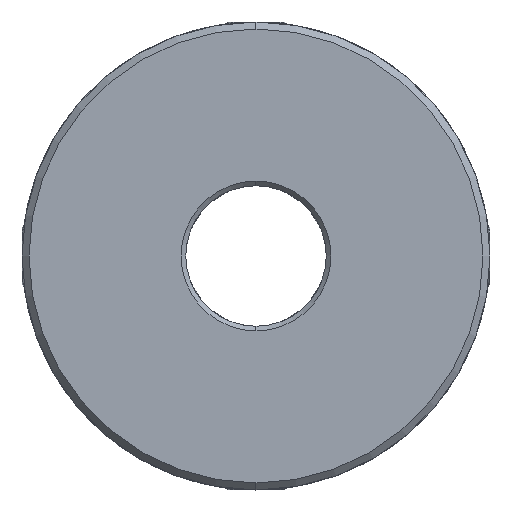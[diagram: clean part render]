
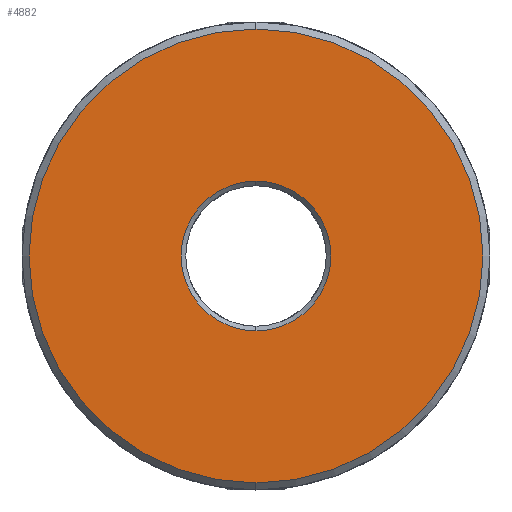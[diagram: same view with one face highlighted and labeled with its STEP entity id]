
A CAD part, front view. The second image highlights one B-rep face of the part: STEP entity #4882.
In plain terms, the highlighted planar face has unit normal (0, -1, 0).
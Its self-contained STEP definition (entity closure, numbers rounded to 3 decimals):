
#163 = AXIS2_PLACEMENT_3D ( 'NONE', #7270, #7243, #3654 ) ;
#331 = CIRCLE ( 'NONE', #1789, 6.4 ) ;
#390 = DIRECTION ( 'NONE',  ( 0., 0., 1. ) ) ;
#555 = CARTESIAN_POINT ( 'NONE',  ( 0., 0., 0. ) ) ;
#1789 = AXIS2_PLACEMENT_3D ( 'NONE', #3276, #3200, #5018 ) ;
#1980 = CARTESIAN_POINT ( 'NONE',  ( 0., 0., -6.4 ) ) ;
#2040 = DIRECTION ( 'NONE',  ( 0., -1., 0. ) ) ;
#2156 = CARTESIAN_POINT ( 'NONE',  ( 24.74, 0., -50. ) ) ;
#2391 = CIRCLE ( 'NONE', #163, 6.4 ) ;
#2594 = FACE_BOUND ( 'NONE', #5749, .T. ) ;
#2837 = ORIENTED_EDGE ( 'NONE', *, *, #3134, .T. ) ;
#3014 = CARTESIAN_POINT ( 'NONE',  ( 0., 0., 6.4 ) ) ;
#3096 = AXIS2_PLACEMENT_3D ( 'NONE', #6188, #2040, #3767 ) ;
#3134 = EDGE_CURVE ( 'NONE', #4165, #5867, #2391, .T. ) ;
#3200 = DIRECTION ( 'NONE',  ( 0., 1., 0. ) ) ;
#3276 = CARTESIAN_POINT ( 'NONE',  ( 0., 0., 0. ) ) ;
#3654 = DIRECTION ( 'NONE',  ( 0., 0., 1. ) ) ;
#3767 = DIRECTION ( 'NONE',  ( 0., 0., 1. ) ) ;
#3959 = DIRECTION ( 'NONE',  ( 0., 1., 0. ) ) ;
#4165 = VERTEX_POINT ( 'NONE', #3014 ) ;
#4570 = PLANE ( 'NONE',  #6126 ) ;
#4620 = ORIENTED_EDGE ( 'NONE', *, *, #7064, .T. ) ;
#4734 = FACE_OUTER_BOUND ( 'NONE', #6218, .T. ) ;
#4784 = DIRECTION ( 'NONE',  ( 0., -1., 0. ) ) ;
#4882 = ADVANCED_FACE ( 'NONE', ( #2594, #4734 ), #4570, .F. ) ;
#5018 = DIRECTION ( 'NONE',  ( 0., 0., 1. ) ) ;
#5076 = CIRCLE ( 'NONE', #3096, 19.4 ) ;
#5336 = EDGE_CURVE ( 'NONE', #5867, #4165, #331, .T. ) ;
#5749 = EDGE_LOOP ( 'NONE', ( #6654, #2837 ) ) ;
#5867 = VERTEX_POINT ( 'NONE', #1980 ) ;
#5990 = CARTESIAN_POINT ( 'NONE',  ( 0., 0., -19.4 ) ) ;
#6075 = ORIENTED_EDGE ( 'NONE', *, *, #6773, .T. ) ;
#6126 = AXIS2_PLACEMENT_3D ( 'NONE', #2156, #3959, #390 ) ;
#6155 = VERTEX_POINT ( 'NONE', #5990 ) ;
#6188 = CARTESIAN_POINT ( 'NONE',  ( 0., 0., 0. ) ) ;
#6218 = EDGE_LOOP ( 'NONE', ( #4620, #6075 ) ) ;
#6568 = DIRECTION ( 'NONE',  ( 0., 0., 1. ) ) ;
#6654 = ORIENTED_EDGE ( 'NONE', *, *, #5336, .T. ) ;
#6773 = EDGE_CURVE ( 'NONE', #6155, #7436, #5076, .T. ) ;
#6906 = CARTESIAN_POINT ( 'NONE',  ( 0., 0., 19.4 ) ) ;
#6934 = AXIS2_PLACEMENT_3D ( 'NONE', #555, #4784, #6568 ) ;
#7064 = EDGE_CURVE ( 'NONE', #7436, #6155, #7349, .T. ) ;
#7243 = DIRECTION ( 'NONE',  ( 0., 1., 0. ) ) ;
#7270 = CARTESIAN_POINT ( 'NONE',  ( 0., 0., 0. ) ) ;
#7349 = CIRCLE ( 'NONE', #6934, 19.4 ) ;
#7436 = VERTEX_POINT ( 'NONE', #6906 ) ;
